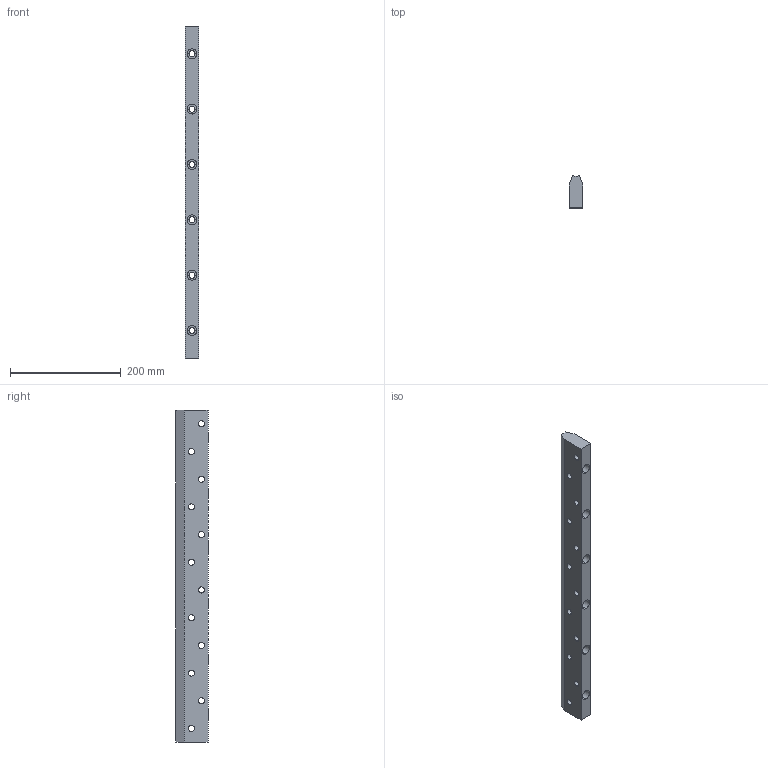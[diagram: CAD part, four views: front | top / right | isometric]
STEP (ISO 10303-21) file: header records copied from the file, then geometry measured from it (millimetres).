
FILE_DESCRIPTION (( 'STEP AP203' ), '1' );
FILE_NAME ('FKWU54-130.step', '2020-03-23T07:53:34', ( '' ), ( '' ), 'SwSTEP 2.0', 'SolidWorks 2019', '' );
FILE_SCHEMA (( 'CONFIG_CONTROL_DESIGN' ));
Length unit declared in the file: millimetre
Products named in the file (2): FKWU54-130
Bounding box: 25 x 58.01 x 599.5 mm (x, y, z)
Volume: 699173.4 mm3; surface area: 120379.6 mm2
Topology: 1 solids, 1 shells, 111 faces, 267 edges, 170 vertices
Faces by surface type: cylinder 72, plane 39
Entity records: 3488 total; most frequent: CARTESIAN_POINT 622, DIRECTION 601, ORIENTED_EDGE 534, EDGE_CURVE 267, AXIS2_PLACEMENT_3D 245, VERTEX_POINT 170, EDGE_LOOP 159, CIRCLE 132
